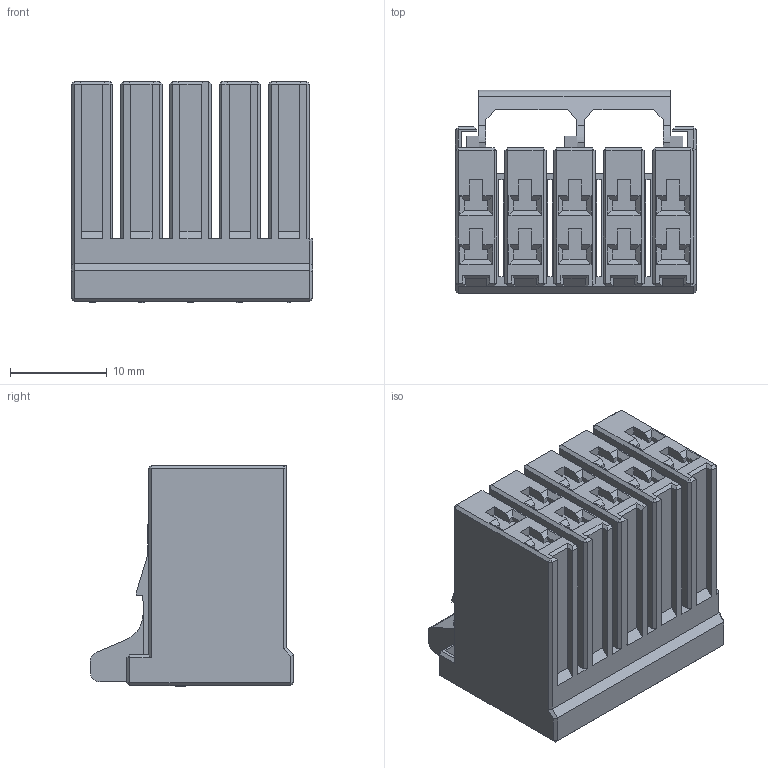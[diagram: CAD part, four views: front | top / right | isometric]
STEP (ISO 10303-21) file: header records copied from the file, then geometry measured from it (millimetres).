
FILE_DESCRIPTION (( 'STEP AP203' ), '1' );
FILE_NAME ('DK-3500D-10R.STEP', '2023-11-30T02:12:26', ( '' ), ( '' ), 'SwSTEP 2.0', 'SolidWorks 2018', '' );
FILE_SCHEMA (( 'CONFIG_CONTROL_DESIGN' ));
Length unit declared in the file: millimetre
Products named in the file (1): DK-3500D-10R
Bounding box: 24.9 x 21 x 22.9 mm (x, y, z)
Volume: 6391 mm3; surface area: 6241.2 mm2
Topology: 1 solids, 1 shells, 850 faces, 2257 edges, 1443 vertices
Faces by surface type: plane 737, bspline 106, cylinder 7
Entity records: 28744 total; most frequent: CARTESIAN_POINT 8361, ORIENTED_EDGE 4514, DIRECTION 3549, EDGE_CURVE 2257, VECTOR 2031, LINE 2031, VERTEX_POINT 1443, EDGE_LOOP 896
